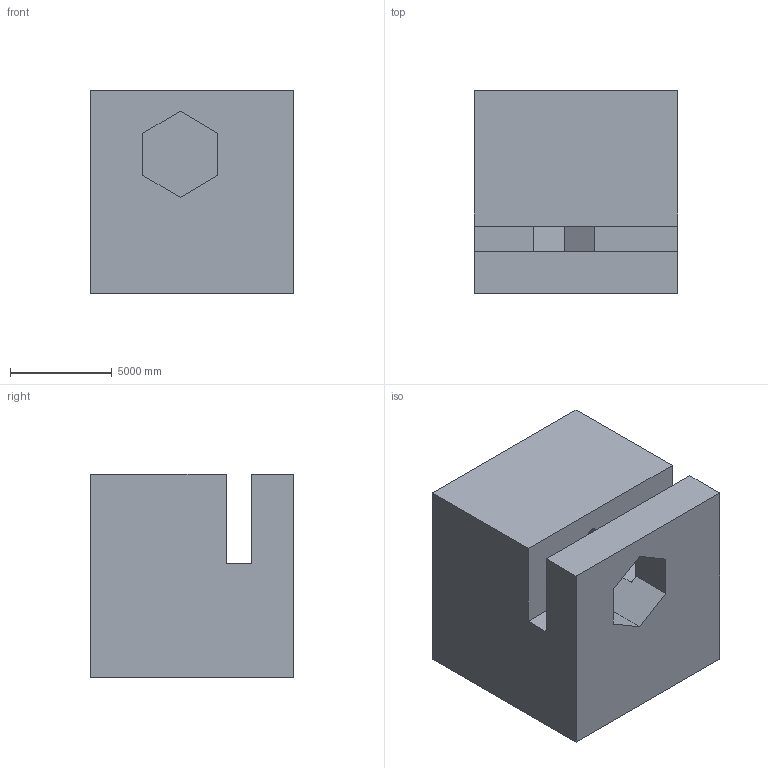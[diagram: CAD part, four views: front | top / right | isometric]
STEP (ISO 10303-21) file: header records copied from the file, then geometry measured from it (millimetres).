
FILE_DESCRIPTION (( 'STEP AP203' ), '1' );
FILE_NAME ('1155.STEP', '2022-08-18T12:58:40', ( 'user' ), ( '' ), 'SwSTEP 2.0', 'SolidWorks 2021', '' );
FILE_SCHEMA (( 'CONFIG_CONTROL_DESIGN' ));
Length unit declared in the file: centimetre
Products named in the file (1): 1155
Bounding box: 10000 x 10000 x 10000 mm (x, y, z)
Volume: 861251793537.8 mm3; surface area: 747634293.4 mm2
Topology: 1 solids, 1 shells, 22 faces, 63 edges, 42 vertices
Faces by surface type: plane 22
Entity records: 788 total; most frequent: CARTESIAN_POINT 128, ORIENTED_EDGE 126, DIRECTION 109, EDGE_CURVE 63, LINE 63, VECTOR 63, VERTEX_POINT 42, AXIS2_PLACEMENT_3D 23
